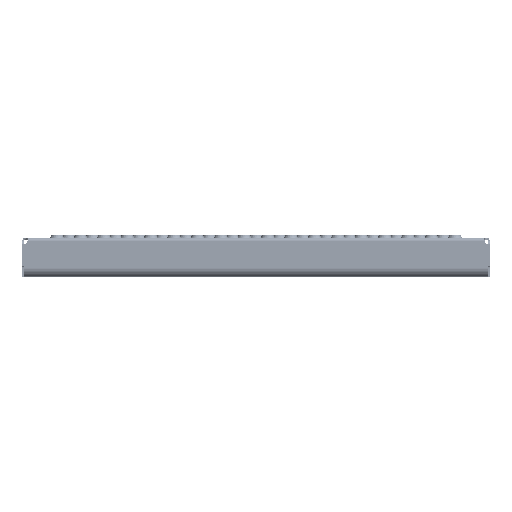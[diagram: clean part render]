
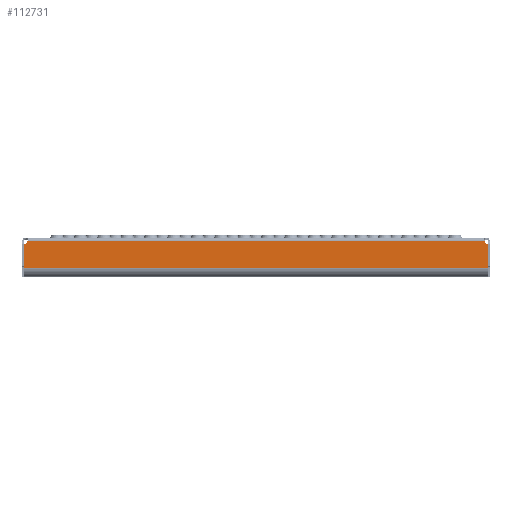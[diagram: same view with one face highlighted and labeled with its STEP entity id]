
A CAD part, top view. The second image highlights one B-rep face of the part: STEP entity #112731.
In plain terms, the highlighted planar face has unit normal (0, 0, 1).
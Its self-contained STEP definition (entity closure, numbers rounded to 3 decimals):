
#2310 = EDGE_LOOP ( 'NONE', ( #31584, #12255, #46509, #122276, #78893, #8318 ) ) ;
#5816 = FACE_OUTER_BOUND ( 'NONE', #2310, .T. ) ;
#7023 = DIRECTION ( 'NONE',  ( 1., 0., 0. ) ) ;
#8318 = ORIENTED_EDGE ( 'NONE', *, *, #120227, .T. ) ;
#8323 = EDGE_CURVE ( 'NONE', #108960, #77200, #102836, .T. ) ;
#12043 = AXIS2_PLACEMENT_3D ( 'NONE', #93069, #43683, #83560 ) ;
#12255 = ORIENTED_EDGE ( 'NONE', *, *, #8323, .T. ) ;
#15896 = DIRECTION ( 'NONE',  ( 1., 0., 0. ) ) ;
#17940 = CARTESIAN_POINT ( 'NONE',  ( 247.99, -7.185, 75. ) ) ;
#26700 = EDGE_CURVE ( 'NONE', #62684, #98730, #84908, .T. ) ;
#27308 = CARTESIAN_POINT ( 'NONE',  ( 244.302, -4., 75. ) ) ;
#31584 = ORIENTED_EDGE ( 'NONE', *, *, #100779, .T. ) ;
#34852 = CARTESIAN_POINT ( 'NONE',  ( -249., 145.712, 75. ) ) ;
#36935 = DIRECTION ( 'NONE',  ( 0., 1., 0. ) ) ;
#41272 = VECTOR ( 'NONE', #15896, 1000. ) ;
#42181 = AXIS2_PLACEMENT_3D ( 'NONE', #75059, #95937, #122467 ) ;
#43683 = DIRECTION ( 'NONE',  ( 0., 0., -1. ) ) ;
#46509 = ORIENTED_EDGE ( 'NONE', *, *, #122991, .T. ) ;
#50232 = CARTESIAN_POINT ( 'NONE',  ( -244.302, -4., 75. ) ) ;
#55188 = CARTESIAN_POINT ( 'NONE',  ( -247.99, -31.998, 75. ) ) ;
#61682 = AXIS2_PLACEMENT_3D ( 'NONE', #34852, #86815, #67857 ) ;
#62684 = VERTEX_POINT ( 'NONE', #50232 ) ;
#64077 = DIRECTION ( 'NONE',  ( 0., -1., 0. ) ) ;
#64709 = CIRCLE ( 'NONE', #12043, 5. ) ;
#66178 = VECTOR ( 'NONE', #36935, 1000. ) ;
#66495 = VERTEX_POINT ( 'NONE', #76591 ) ;
#67857 = DIRECTION ( 'NONE',  ( 0., -1., 0. ) ) ;
#74795 = LINE ( 'NONE', #113952, #114547 ) ;
#75059 = CARTESIAN_POINT ( 'NONE',  ( -249., -2.288, 75. ) ) ;
#75439 = EDGE_CURVE ( 'NONE', #62684, #120941, #96760, .T. ) ;
#76591 = CARTESIAN_POINT ( 'NONE',  ( -247.99, -31.998, 75. ) ) ;
#77200 = VERTEX_POINT ( 'NONE', #88751 ) ;
#78893 = ORIENTED_EDGE ( 'NONE', *, *, #75439, .T. ) ;
#83560 = DIRECTION ( 'NONE',  ( 0., -1., 0. ) ) ;
#84908 = LINE ( 'NONE', #124068, #41272 ) ;
#86815 = DIRECTION ( 'NONE',  ( 0., 0., 1. ) ) ;
#88751 = CARTESIAN_POINT ( 'NONE',  ( 247.99, -7.185, 75. ) ) ;
#93069 = CARTESIAN_POINT ( 'NONE',  ( 249., -2.288, 75. ) ) ;
#95937 = DIRECTION ( 'NONE',  ( 0., 0., -1. ) ) ;
#96760 = CIRCLE ( 'NONE', #42181, 5. ) ;
#98624 = CARTESIAN_POINT ( 'NONE',  ( -247.99, -7.185, 75. ) ) ;
#98730 = VERTEX_POINT ( 'NONE', #27308 ) ;
#100779 = EDGE_CURVE ( 'NONE', #66495, #108960, #103234, .T. ) ;
#102836 = LINE ( 'NONE', #17940, #66178 ) ;
#103234 = LINE ( 'NONE', #55188, #110503 ) ;
#108960 = VERTEX_POINT ( 'NONE', #115480 ) ;
#110503 = VECTOR ( 'NONE', #7023, 1000. ) ;
#112731 = ADVANCED_FACE ( 'NONE', ( #5816 ), #121603, .T. ) ;
#113952 = CARTESIAN_POINT ( 'NONE',  ( -247.99, -7.185, 75. ) ) ;
#114547 = VECTOR ( 'NONE', #64077, 1000. ) ;
#115480 = CARTESIAN_POINT ( 'NONE',  ( 247.99, -31.998, 75. ) ) ;
#120227 = EDGE_CURVE ( 'NONE', #120941, #66495, #74795, .T. ) ;
#120941 = VERTEX_POINT ( 'NONE', #98624 ) ;
#121603 = PLANE ( 'NONE',  #61682 ) ;
#122276 = ORIENTED_EDGE ( 'NONE', *, *, #26700, .F. ) ;
#122467 = DIRECTION ( 'NONE',  ( 0., -1., 0. ) ) ;
#122991 = EDGE_CURVE ( 'NONE', #77200, #98730, #64709, .T. ) ;
#124068 = CARTESIAN_POINT ( 'NONE',  ( -249., -4., 75. ) ) ;
